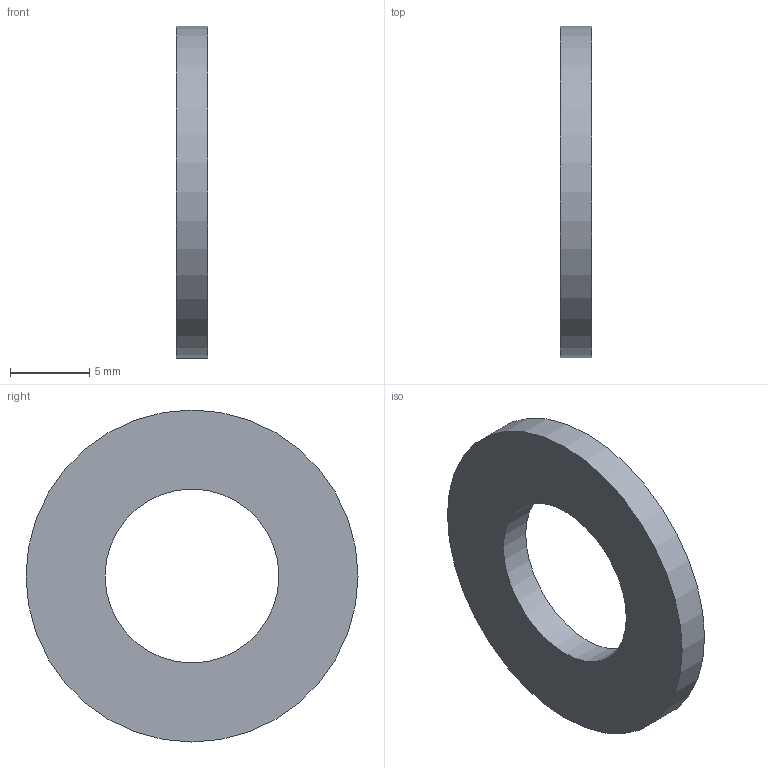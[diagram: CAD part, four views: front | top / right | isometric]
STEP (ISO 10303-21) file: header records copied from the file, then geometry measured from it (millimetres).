
FILE_DESCRIPTION(/* description */ ('평면 와셔'),/* implementation_level */ '2;1');
FILE_NAME(/* name */ '',/* time_stamp */ '2024-09-02T11:23:08+09:00',/* author */ ('jhkim'),/* organization */ (''),/* preprocessor_version */ 'ST-DEVELOPER v20',/* originating_system */ 'Autodesk Inventor 2025',/* authorisation */ '');
FILE_SCHEMA (('AUTOMOTIVE_DESIGN { 1 0 10303 214 3 1 1 }'));
Length unit declared in the file: millimetre
Products named in the file (1): 평와셔 M10
Bounding box: 2 x 21 x 21 mm (x, y, z)
Volume: 502.7 mm3; surface area: 703.7 mm2
Topology: 1 solids, 1 shells, 4 faces, 6 edges, 4 vertices
Faces by surface type: cylinder 2, plane 2
Full cylindrical faces by diameter (mm): 11 x1, 21 x1
Entity records: 141 total; most frequent: DIRECTION 20, CARTESIAN_POINT 15, ORIENTED_EDGE 12, AXIS2_PLACEMENT_3D 9, EDGE_LOOP 6, EDGE_CURVE 6, FACE_OUTER_BOUND 4, CIRCLE 4
